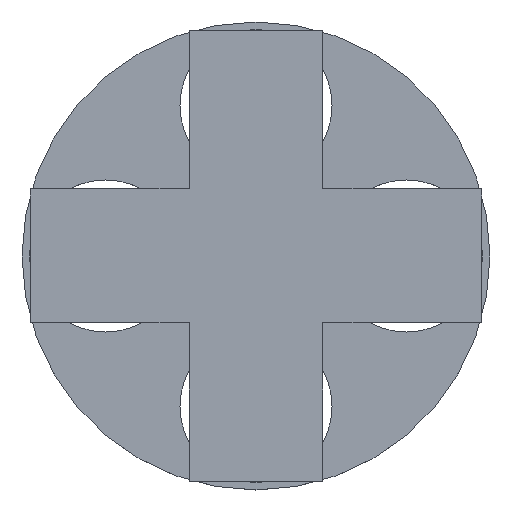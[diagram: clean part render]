
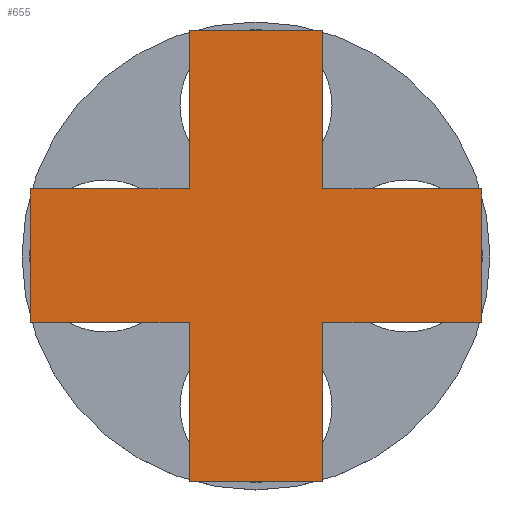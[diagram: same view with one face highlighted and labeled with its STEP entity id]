
A CAD part, top view. The second image highlights one B-rep face of the part: STEP entity #655.
In plain terms, the highlighted planar face has unit normal (0, 0, 1).
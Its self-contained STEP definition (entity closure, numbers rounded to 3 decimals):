
#373 = VERTEX_POINT('',#374);
#374 = CARTESIAN_POINT('',(-41.5,-43.,1.6));
#380 = EDGE_CURVE('',#373,#381,#383,.T.);
#381 = VERTEX_POINT('',#382);
#382 = CARTESIAN_POINT('',(-32.,-43.,1.6));
#383 = LINE('',#384,#385);
#384 = CARTESIAN_POINT('',(-41.5,-43.,1.6));
#385 = VECTOR('',#386,1.);
#386 = DIRECTION('',(1.,0.,0.));
#403 = VERTEX_POINT('',#404);
#404 = CARTESIAN_POINT('',(-41.5,-51.,1.6));
#412 = EDGE_CURVE('',#403,#373,#413,.T.);
#413 = LINE('',#414,#415);
#414 = CARTESIAN_POINT('',(-41.5,-51.,1.6));
#415 = VECTOR('',#416,1.);
#416 = DIRECTION('',(0.,1.,0.));
#426 = EDGE_CURVE('',#381,#427,#429,.T.);
#427 = VERTEX_POINT('',#428);
#428 = CARTESIAN_POINT('',(-32.,-33.5,1.6));
#429 = LINE('',#430,#431);
#430 = CARTESIAN_POINT('',(-32.,-60.5,1.6));
#431 = VECTOR('',#432,1.);
#432 = DIRECTION('',(0.,1.,0.));
#452 = EDGE_CURVE('',#403,#453,#455,.T.);
#453 = VERTEX_POINT('',#454);
#454 = CARTESIAN_POINT('',(-32.,-51.,1.6));
#455 = LINE('',#456,#457);
#456 = CARTESIAN_POINT('',(-41.5,-51.,1.6));
#457 = VECTOR('',#458,1.);
#458 = DIRECTION('',(1.,0.,0.));
#476 = EDGE_CURVE('',#427,#477,#479,.T.);
#477 = VERTEX_POINT('',#478);
#478 = CARTESIAN_POINT('',(-24.,-33.5,1.6));
#479 = LINE('',#480,#481);
#480 = CARTESIAN_POINT('',(-32.,-33.5,1.6));
#481 = VECTOR('',#482,1.);
#482 = DIRECTION('',(1.,0.,0.));
#498 = EDGE_CURVE('',#499,#453,#501,.T.);
#499 = VERTEX_POINT('',#500);
#500 = CARTESIAN_POINT('',(-32.,-60.5,1.6));
#501 = LINE('',#502,#503);
#502 = CARTESIAN_POINT('',(-32.,-60.5,1.6));
#503 = VECTOR('',#504,1.);
#504 = DIRECTION('',(0.,1.,0.));
#522 = EDGE_CURVE('',#523,#477,#525,.T.);
#523 = VERTEX_POINT('',#524);
#524 = CARTESIAN_POINT('',(-24.,-43.,1.6));
#525 = LINE('',#526,#527);
#526 = CARTESIAN_POINT('',(-24.,-60.5,1.6));
#527 = VECTOR('',#528,1.);
#528 = DIRECTION('',(0.,1.,0.));
#548 = EDGE_CURVE('',#499,#549,#551,.T.);
#549 = VERTEX_POINT('',#550);
#550 = CARTESIAN_POINT('',(-24.,-60.5,1.6));
#551 = LINE('',#552,#553);
#552 = CARTESIAN_POINT('',(-32.,-60.5,1.6));
#553 = VECTOR('',#554,1.);
#554 = DIRECTION('',(1.,0.,0.));
#572 = EDGE_CURVE('',#523,#573,#575,.T.);
#573 = VERTEX_POINT('',#574);
#574 = CARTESIAN_POINT('',(-14.5,-43.,1.6));
#575 = LINE('',#576,#577);
#576 = CARTESIAN_POINT('',(-41.5,-43.,1.6));
#577 = VECTOR('',#578,1.);
#578 = DIRECTION('',(1.,0.,0.));
#594 = EDGE_CURVE('',#549,#595,#597,.T.);
#595 = VERTEX_POINT('',#596);
#596 = CARTESIAN_POINT('',(-24.,-51.,1.6));
#597 = LINE('',#598,#599);
#598 = CARTESIAN_POINT('',(-24.,-60.5,1.6));
#599 = VECTOR('',#600,1.);
#600 = DIRECTION('',(0.,1.,0.));
#619 = VERTEX_POINT('',#620);
#620 = CARTESIAN_POINT('',(-14.5,-51.,1.6));
#628 = EDGE_CURVE('',#619,#573,#629,.T.);
#629 = LINE('',#630,#631);
#630 = CARTESIAN_POINT('',(-14.5,-51.,1.6));
#631 = VECTOR('',#632,1.);
#632 = DIRECTION('',(0.,1.,0.));
#644 = EDGE_CURVE('',#595,#619,#645,.T.);
#645 = LINE('',#646,#647);
#646 = CARTESIAN_POINT('',(-41.5,-51.,1.6));
#647 = VECTOR('',#648,1.);
#648 = DIRECTION('',(1.,0.,0.));
#655 = ADVANCED_FACE('',(#656),#670,.T.);
#656 = FACE_BOUND('',#657,.T.);
#657 = EDGE_LOOP('',(#658,#659,#660,#661,#662,#663,#664,#665,#666,#667,
    #668,#669));
#658 = ORIENTED_EDGE('',*,*,#380,.F.);
#659 = ORIENTED_EDGE('',*,*,#412,.F.);
#660 = ORIENTED_EDGE('',*,*,#452,.T.);
#661 = ORIENTED_EDGE('',*,*,#498,.F.);
#662 = ORIENTED_EDGE('',*,*,#548,.T.);
#663 = ORIENTED_EDGE('',*,*,#594,.T.);
#664 = ORIENTED_EDGE('',*,*,#644,.T.);
#665 = ORIENTED_EDGE('',*,*,#628,.T.);
#666 = ORIENTED_EDGE('',*,*,#572,.F.);
#667 = ORIENTED_EDGE('',*,*,#522,.T.);
#668 = ORIENTED_EDGE('',*,*,#476,.F.);
#669 = ORIENTED_EDGE('',*,*,#426,.F.);
#670 = PLANE('',#671);
#671 = AXIS2_PLACEMENT_3D('',#672,#673,#674);
#672 = CARTESIAN_POINT('',(-28.,-47.,1.6));
#673 = DIRECTION('',(0.,0.,1.));
#674 = DIRECTION('',(1.,0.,0.));
